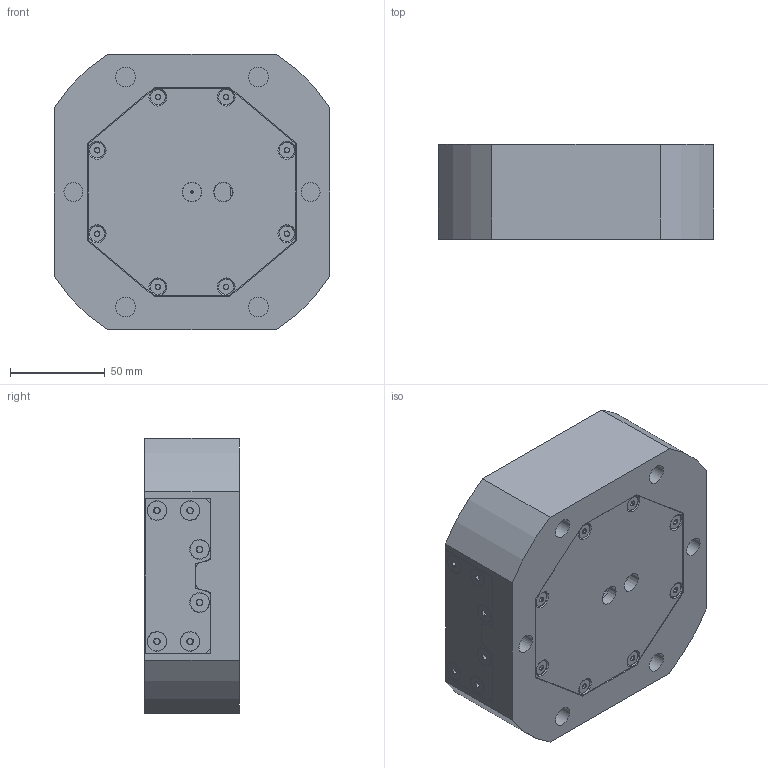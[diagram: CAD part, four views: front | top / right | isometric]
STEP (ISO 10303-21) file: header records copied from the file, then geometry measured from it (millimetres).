
FILE_DESCRIPTION (( 'STEP AP214' ), '1' );
FILE_NAME ('RL52E-66_WEBSITE.step', '2025-08-12T15:37:01', ( '' ), ( '' ), 'SwSTEP 2.0', 'SolidWorks 2024', '' );
FILE_SCHEMA (( 'AUTOMOTIVE_DESIGN' ));
Length unit declared in the file: inch
Products named in the file (14): -239 O-RING 9452K189_OIL-RESISTANT BUNA-N MULTIPURPOSE O-RING_WEBSITE; 1295N141_Chemical-Resistant Viton Fluoroelastomer O-Ring_WEBSITE_1295N141; RL52E-66_WEBSITE; 91294A212_BLACK ALLOY STEEL FLAT-HEAD SOCKET CAP SCREW_WEBSITE; 011.OR.V_WEBSITE_9452K19; -014 O-RING 9452K580_OIL-RESISTANT BUNA-N MULTIPURPOSE O-RING_WEBSITE; RL52P-6_WEBSITE; RL52P-3A_WEBSITE; RL52P-8_WEBSITE; -032 O-RING 9452K119_WEBSITE; 91294A192_BLACK ALLOY STEEL FLAT-HEAD SOCKET CAP SCREW_WEBSITE; HW.CAP.M10_WEBSITE; RL52E-166S_WEBSITE_FINISHED; HW22X16.DB.A_WEBSITE_MILL
Assembly tree (48 placements, depth 2):
  RL52E-66_WEBSITE
    RL52E-166S_WEBSITE_FINISHED
    RL52P-3A_WEBSITE
    RL52P-6_WEBSITE  x2
    RL52P-8_WEBSITE  x4
    HW22X16.DB.A_WEBSITE_MILL  x4
    HW.CAP.M10_WEBSITE  x4
    -014 O-RING 9452K580_OIL-RESISTANT BUNA-N MULTIPURPOSE O-RING_WEBSITE
    -239 O-RING 9452K189_OIL-RESISTANT BUNA-N MULTIPURPOSE O-RING_WEBSITE
    -032 O-RING 9452K119_WEBSITE  x2
    91294A212_BLACK ALLOY STEEL FLAT-HEAD SOCKET CAP SCREW_WEBSITE  x12
    91294A192_BLACK ALLOY STEEL FLAT-HEAD SOCKET CAP SCREW_WEBSITE  x8
    011.OR.V_WEBSITE_9452K19  x4
    1295N141_Chemical-Resistant Viton Fluoroelastomer O-Ring_WEBSITE_1295N141  x4
Bounding box: 145.2 x 50 x 145 mm (x, y, z)
Volume: 729063.5 mm3; surface area: 165966.5 mm2
Topology: 48 solids, 48 shells, 921 faces, 1949 edges, 1180 vertices
Faces by surface type: plane 387, cylinder 310, cone 202, torus 20, bspline 2
Full cylindrical faces by diameter (mm): 1.194 x33, 1.575 x16, 1.587 x14, 3.175 x4, 3.3 x8, 4 x16, 4.2 x12, 4.5 x8, 4.801 x4, 5 x24, 5.5 x12, 6.274 x8, 6.375 x4, 8 x8, 9.144 x4, 9.347 x4, 9.525 x4, 9.884 x1, 10 x12, 10.046 x2, 10.5 x4, 12.763 x2, 12.776 x1, 15.494 x4, 15.621 x1, 16.002 x4, 17.323 x4, 18.2 x4, 18.796 x8, 18.999 x4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
Entity records: 13320 total; most frequent: CARTESIAN_POINT 3027, DIRECTION 2138, ORIENTED_EDGE 1588, AXIS2_PLACEMENT_3D 905, EDGE_CURVE 794, EDGE_LOOP 788, VERTEX_POINT 618, FACE_OUTER_BOUND 594
